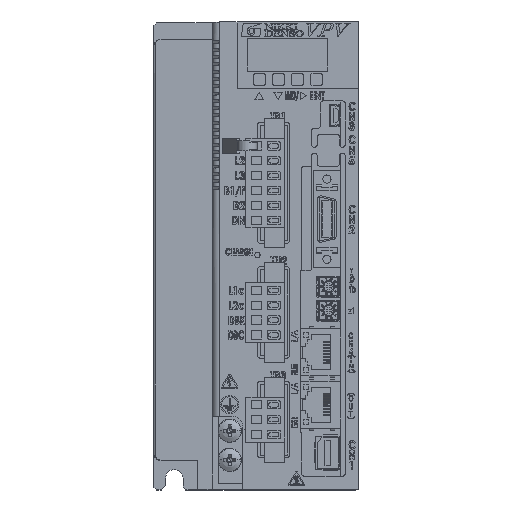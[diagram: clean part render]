
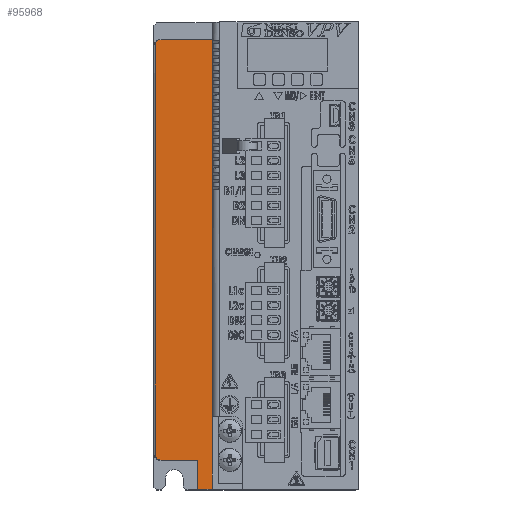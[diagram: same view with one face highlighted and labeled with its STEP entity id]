
A CAD part, top view. The second image highlights one B-rep face of the part: STEP entity #95968.
In plain terms, the highlighted planar face has unit normal (0, 0, 1).
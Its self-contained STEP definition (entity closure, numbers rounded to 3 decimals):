
#2171 = VERTEX_POINT ( 'NONE', #56588 ) ;
#8649 = AXIS2_PLACEMENT_3D ( 'NONE', #184712, #151887, #224834 ) ;
#13944 = EDGE_CURVE ( 'NONE', #198985, #2171, #113554, .T. ) ;
#15463 = VERTEX_POINT ( 'NONE', #208375 ) ;
#18486 = ORIENTED_EDGE ( 'NONE', *, *, #184553, .F. ) ;
#23110 = DIRECTION ( 'NONE',  ( 1., 0., 0. ) ) ;
#37118 = LINE ( 'NONE', #113467, #142915 ) ;
#48158 = CARTESIAN_POINT ( 'NONE',  ( -55., -150., 151.5 ) ) ;
#56588 = CARTESIAN_POINT ( 'NONE',  ( -69.5, -149., 151.5 ) ) ;
#57898 = CARTESIAN_POINT ( 'NONE',  ( -50., -160., 151.5 ) ) ;
#66390 = CARTESIAN_POINT ( 'NONE',  ( -67.5, -147.5, 151.5 ) ) ;
#73405 = VECTOR ( 'NONE', #149101, 1000. ) ;
#78590 = PLANE ( 'NONE',  #130933 ) ;
#87401 = ORIENTED_EDGE ( 'NONE', *, *, #111511, .F. ) ;
#88294 = CARTESIAN_POINT ( 'NONE',  ( -69.5, -160., 151.5 ) ) ;
#90881 = LINE ( 'NONE', #246219, #73405 ) ;
#91034 = CARTESIAN_POINT ( 'NONE',  ( -50., -158., 151.5 ) ) ;
#93036 = EDGE_LOOP ( 'NONE', ( #132224, #107653, #18486, #211350, #87401, #202357, #198989, #232700, #94759 ) ) ;
#94064 = DIRECTION ( 'NONE',  ( 0., 1., 0. ) ) ;
#94759 = ORIENTED_EDGE ( 'NONE', *, *, #159103, .T. ) ;
#95968 = ADVANCED_FACE ( 'NONE', ( #253299 ), #78590, .F. ) ;
#103092 = EDGE_CURVE ( 'NONE', #108363, #198988, #139688, .T. ) ;
#107653 = ORIENTED_EDGE ( 'NONE', *, *, #132459, .F. ) ;
#108073 = VERTEX_POINT ( 'NONE', #125012 ) ;
#108363 = VERTEX_POINT ( 'NONE', #114453 ) ;
#111511 = EDGE_CURVE ( 'NONE', #198988, #198985, #206999, .T. ) ;
#113467 = CARTESIAN_POINT ( 'NONE',  ( -50., -160., 151.5 ) ) ;
#113554 = CIRCLE ( 'NONE', #204515, 2.5 ) ;
#114453 = CARTESIAN_POINT ( 'NONE',  ( -55., -160., 151.5 ) ) ;
#116709 = CIRCLE ( 'NONE', #8649, 2.5 ) ;
#122068 = DIRECTION ( 'NONE',  ( -1., 0., 0. ) ) ;
#125012 = CARTESIAN_POINT ( 'NONE',  ( -67.5, -6., 151.5 ) ) ;
#125845 = LINE ( 'NONE', #88294, #192864 ) ;
#127829 = LINE ( 'NONE', #145983, #129975 ) ;
#128377 = DIRECTION ( 'NONE',  ( 0., 1., 0. ) ) ;
#129975 = VECTOR ( 'NONE', #23110, 1000. ) ;
#130284 = VERTEX_POINT ( 'NONE', #91034 ) ;
#130933 = AXIS2_PLACEMENT_3D ( 'NONE', #57898, #175630, #160075 ) ;
#131060 = CARTESIAN_POINT ( 'NONE',  ( -50., -160., 151.5 ) ) ;
#132224 = ORIENTED_EDGE ( 'NONE', *, *, #201606, .F. ) ;
#132459 = EDGE_CURVE ( 'NONE', #236694, #108073, #116709, .T. ) ;
#133576 = DIRECTION ( 'NONE',  ( 0., 1., 0. ) ) ;
#139688 = LINE ( 'NONE', #144782, #154776 ) ;
#142915 = VECTOR ( 'NONE', #94064, 1000. ) ;
#144782 = CARTESIAN_POINT ( 'NONE',  ( -55., -160., 151.5 ) ) ;
#145983 = CARTESIAN_POINT ( 'NONE',  ( -50., -6., 151.5 ) ) ;
#149101 = DIRECTION ( 'NONE',  ( -1., 0., 0. ) ) ;
#151887 = DIRECTION ( 'NONE',  ( 0., 0., -1. ) ) ;
#154776 = VECTOR ( 'NONE', #223733, 1000. ) ;
#159103 = EDGE_CURVE ( 'NONE', #130284, #15463, #191848, .T. ) ;
#160075 = DIRECTION ( 'NONE',  ( -1., 0., 0. ) ) ;
#162923 = VERTEX_POINT ( 'NONE', #179829 ) ;
#164357 = DIRECTION ( 'NONE',  ( -1., 0., 0. ) ) ;
#175630 = DIRECTION ( 'NONE',  ( 0., 0., -1. ) ) ;
#179829 = CARTESIAN_POINT ( 'NONE',  ( -50., -160., 151.5 ) ) ;
#184553 = EDGE_CURVE ( 'NONE', #2171, #236694, #125845, .T. ) ;
#184712 = CARTESIAN_POINT ( 'NONE',  ( -67.5, -8.5, 151.5 ) ) ;
#191848 = LINE ( 'NONE', #131060, #201685 ) ;
#192864 = VECTOR ( 'NONE', #128377, 1000. ) ;
#198985 = VERTEX_POINT ( 'NONE', #209820 ) ;
#198989 = ORIENTED_EDGE ( 'NONE', *, *, #210055, .F. ) ;
#198988 = VERTEX_POINT ( 'NONE', #48158 ) ;
#201606 = EDGE_CURVE ( 'NONE', #108073, #15463, #127829, .T. ) ;
#201685 = VECTOR ( 'NONE', #133576, 1000. ) ;
#202357 = ORIENTED_EDGE ( 'NONE', *, *, #103092, .F. ) ;
#202506 = CARTESIAN_POINT ( 'NONE',  ( -69.5, -7., 151.5 ) ) ;
#203367 = EDGE_CURVE ( 'NONE', #162923, #130284, #37118, .T. ) ;
#204515 = AXIS2_PLACEMENT_3D ( 'NONE', #66390, #204831, #122068 ) ;
#204831 = DIRECTION ( 'NONE',  ( 0., 0., -1. ) ) ;
#206999 = LINE ( 'NONE', #223890, #227380 ) ;
#208375 = CARTESIAN_POINT ( 'NONE',  ( -50., -6., 151.5 ) ) ;
#209820 = CARTESIAN_POINT ( 'NONE',  ( -67.5, -150., 151.5 ) ) ;
#210055 = EDGE_CURVE ( 'NONE', #162923, #108363, #90881, .T. ) ;
#211350 = ORIENTED_EDGE ( 'NONE', *, *, #13944, .F. ) ;
#223733 = DIRECTION ( 'NONE',  ( 0., 1., 0. ) ) ;
#223890 = CARTESIAN_POINT ( 'NONE',  ( -55., -150., 151.5 ) ) ;
#224834 = DIRECTION ( 'NONE',  ( -1., 0., 0. ) ) ;
#227380 = VECTOR ( 'NONE', #164357, 1000. ) ;
#232700 = ORIENTED_EDGE ( 'NONE', *, *, #203367, .T. ) ;
#236694 = VERTEX_POINT ( 'NONE', #202506 ) ;
#246219 = CARTESIAN_POINT ( 'NONE',  ( -50., -160., 151.5 ) ) ;
#253299 = FACE_OUTER_BOUND ( 'NONE', #93036, .T. ) ;
